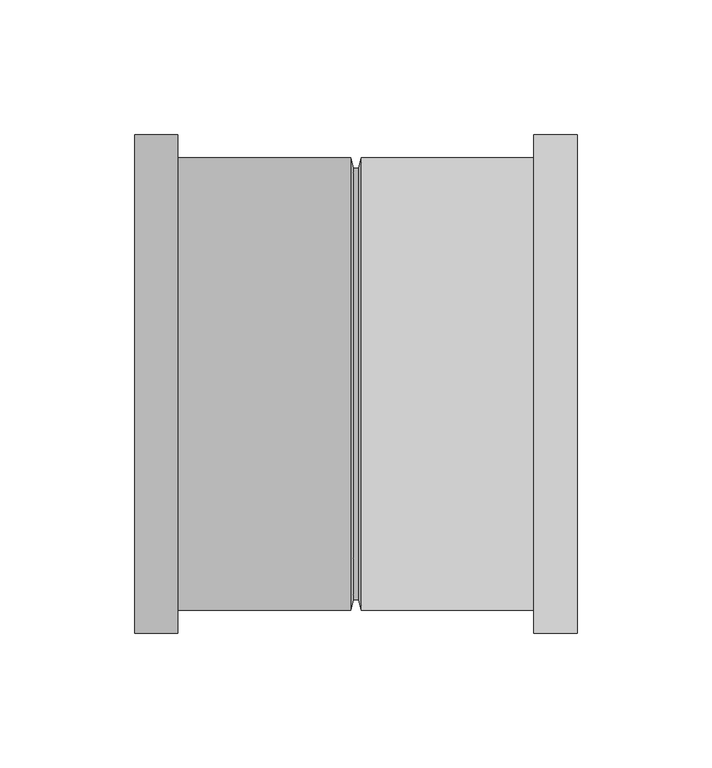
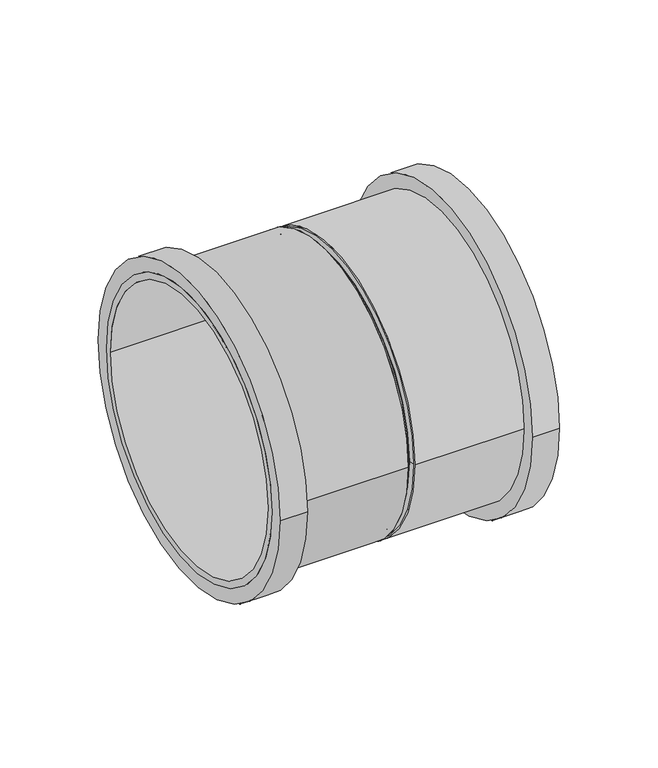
"""IFC4 building model written with IfcOpenShell, lengths in millimetres: pipe fitting geometry, Superdrain HTMM-Double socket : Superdrain HTMM-Double socket."""

from ifc_helpers import new_model, si_unit, point, frame, origin, origin_2d, place, context, project, spatial, polyline, circle_curve, trimmed, segment, composite_curve, outline, extrude, source, transform, mapped, element, save
from ifc_brep_helpers import plane_surface, revolved_surface, advanced_brep


def pipe_fitting_bc2beba0(model_context):
    return source(origin(), model_context, "Body", "SolidModel", [
        extrude(outline(composite_curve([segment(trimmed(circle_curve(origin_2d(), 84.0), [point((84.0, 0.0))], [point((-84.0, 0.0))], False, "CARTESIAN"), True, "CONTINUOUS"), segment(trimmed(circle_curve(origin_2d(), 84.0), [point((-84.0, 0.0))], [point((84.0, 0.0))], False, "CARTESIAN"), True, "CONTINUOUS")], self_intersect=False), holes=[composite_curve([segment(trimmed(circle_curve(origin_2d(), 80.0), [point((80.0, 0.0))], [point((-80.0, 0.0))], True, "CARTESIAN"), True, "CONTINUOUS"), segment(trimmed(circle_curve(origin_2d(), 80.0), [point((-80.0, 0.0))], [point((80.0, 0.0))], True, "CARTESIAN"), True, "CONTINUOUS")], self_intersect=False)]), frame((2.0, 0.0, 0.0), z_axis=(1.0, 0.0, 0.0), x_axis=(0.0, 1.0, 0.0)), (0.0, 0.0, 1.0), 80.0),
        extrude(outline(composite_curve([segment(trimmed(circle_curve(origin_2d(), 92.4), [point((92.4, 0.0))], [point((-92.4, 0.0))], False, "CARTESIAN"), True, "CONTINUOUS"), segment(trimmed(circle_curve(origin_2d(), 92.4), [point((-92.4, 0.0))], [point((92.4, 0.0))], False, "CARTESIAN"), True, "CONTINUOUS")], self_intersect=False), holes=[composite_curve([segment(trimmed(circle_curve(origin_2d(), 80.0), [point((80.0, 0.0))], [point((-80.0, 0.0))], True, "CARTESIAN"), True, "CONTINUOUS"), segment(trimmed(circle_curve(origin_2d(), 80.0), [point((-80.0, 0.0))], [point((80.0, 0.0))], True, "CARTESIAN"), True, "CONTINUOUS")], self_intersect=False)]), frame((66.0, 0.0, 0.0), z_axis=(1.0, 0.0, 0.0), x_axis=(0.0, 1.0, 0.0)), (0.0, 0.0, 1.0), 16.0),
        advanced_brep(
        [(1.0, 80.0, 0.0), (1.0, -80.0, 0.0), (2.0, 84.0, 0.0), (2.0, -84.0, 0.0)],
        [
            (0, 1, circle_curve(frame((1.0, 0.0, 0.0), z_axis=(-1.0, 0.0, 0.0), x_axis=(0.0, 1.0000000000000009, 0.0)), 80.0)),
            (1, 0, circle_curve(frame((1.0, 0.0, 0.0), z_axis=(-1.0, 0.0, 0.0), x_axis=(0.0, -1.0000000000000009, 0.0)), 80.0)),
            (2, 3, circle_curve(frame((2.0, 0.0, 0.0), z_axis=(1.0, 0.0, 0.0), x_axis=(0.0, -1.0000000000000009, 0.0)), 84.0)),
            (3, 2, circle_curve(frame((2.0, 0.0, 0.0), z_axis=(1.0, 0.0, 0.0), x_axis=(0.0, 1.0000000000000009, 0.0)), 84.0)),
            (3, 1),
            (0, 2),
        ],
        [
            plane_surface(frame((1.0, 0.0, 0.0), z_axis=(-1.0, 0.0, 0.0), x_axis=(0.0, 0.0, -1.0))),
            plane_surface(frame((2.0, 0.0, 0.0), z_axis=(1.0, 0.0, 0.0), x_axis=(0.0, 0.0, -1.0))),
            revolved_surface(polyline([(0.9999999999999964, 79.99999999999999, 0.0), (2.0, 84.0, 0.0)]), (-19.0, 0.0, 0.0), (1.0000000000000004, 0.0, 0.0)),
            revolved_surface(polyline([(0.9999999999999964, -79.99999999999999, 0.0), (2.0, -84.0, 0.0)]), (-19.0, 0.0, 0.0), (1.0000000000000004, 0.0, 0.0)),
        ],
        [
            (0, [[1, 2]]),
            (1, [[3, 4]]),
            (2, [[-4, 5, -1, 6]]),
            (3, [[-3, -6, -2, -5]]),
        ],
    ),
        extrude(outline(composite_curve([segment(trimmed(circle_curve(origin_2d(), 84.0), [point((-84.0, 0.0))], [point((84.0, 0.0))], False, "CARTESIAN"), True, "CONTINUOUS"), segment(trimmed(circle_curve(origin_2d(), 84.0), [point((84.0, 0.0))], [point((-84.0, 0.0))], False, "CARTESIAN"), True, "CONTINUOUS")], self_intersect=False), holes=[composite_curve([segment(trimmed(circle_curve(origin_2d(), 80.0), [point((-80.0, 0.0))], [point((80.0, 0.0))], True, "CARTESIAN"), True, "CONTINUOUS"), segment(trimmed(circle_curve(origin_2d(), 80.0), [point((80.0, 0.0))], [point((-80.0, 0.0))], True, "CARTESIAN"), True, "CONTINUOUS")], self_intersect=False)]), frame((-82.0, 0.0, 0.0), z_axis=(1.0, 0.0, 0.0), x_axis=(0.0, 1.0, 0.0)), (0.0, 0.0, 1.0), 80.0),
        extrude(outline(composite_curve([segment(trimmed(circle_curve(origin_2d(), 92.4), [point((-92.4, 0.0))], [point((92.4, 0.0))], False, "CARTESIAN"), True, "CONTINUOUS"), segment(trimmed(circle_curve(origin_2d(), 92.4), [point((92.4, 0.0))], [point((-92.4, 0.0))], False, "CARTESIAN"), True, "CONTINUOUS")], self_intersect=False), holes=[composite_curve([segment(trimmed(circle_curve(origin_2d(), 80.0), [point((-80.0, 0.0))], [point((80.0, 0.0))], True, "CARTESIAN"), True, "CONTINUOUS"), segment(trimmed(circle_curve(origin_2d(), 80.0), [point((80.0, 0.0))], [point((-80.0, 0.0))], True, "CARTESIAN"), True, "CONTINUOUS")], self_intersect=False)]), frame((-82.0, 0.0, 0.0), z_axis=(1.0, 0.0, 0.0), x_axis=(0.0, 1.0, 0.0)), (0.0, 0.0, 1.0), 16.0),
        advanced_brep(
        [(-1.0, -80.0, 0.0), (-1.0, 80.0, 0.0), (-2.0, -84.0, 0.0), (-2.0, 84.0, 0.0)],
        [
            (0, 1, circle_curve(frame((-1.0, 0.0, 0.0), z_axis=(1.0, 0.0, 0.0), x_axis=(0.0, -1.0, 0.0)), 80.0)),
            (1, 0, circle_curve(frame((-1.0, 0.0, 0.0), z_axis=(1.0, 0.0, 0.0), x_axis=(0.0, 1.0, 0.0)), 80.0)),
            (2, 3, circle_curve(frame((-2.0, 0.0, 0.0), z_axis=(-1.0, 0.0, 0.0), x_axis=(0.0, 1.0, 0.0)), 84.0)),
            (3, 2, circle_curve(frame((-2.0, 0.0, 0.0), z_axis=(-1.0, 0.0, 0.0), x_axis=(0.0, -1.0, 0.0)), 84.0)),
            (3, 1),
            (0, 2),
        ],
        [
            plane_surface(frame((-1.0, 0.0, 0.0), z_axis=(1.0, 0.0, 0.0), x_axis=(0.0, 0.0, -1.0))),
            plane_surface(frame((-2.0, 0.0, 0.0), z_axis=(-1.0, 0.0, 0.0), x_axis=(0.0, 0.0, -1.0))),
            revolved_surface(polyline([(-1.0, -80.0, 0.0), (-2.0, -84.0, 0.0)]), (19.0, 0.0, 0.0), (-1.0, 0.0, 0.0)),
            revolved_surface(polyline([(-1.0, 80.0, 0.0), (-2.0, 84.0, 0.0)]), (19.0, 0.0, 0.0), (-1.0, 0.0, 0.0)),
        ],
        [
            (0, [[1, 2]]),
            (1, [[3, 4]]),
            (2, [[-4, 5, -1, 6]]),
            (3, [[-3, -6, -2, -5]]),
        ],
    ),
        extrude(outline(composite_curve([segment(trimmed(circle_curve(origin_2d(), 80.0), [point((-80.0, 0.0))], [point((80.0, 0.0))], False, "CARTESIAN"), True, "CONTINUOUS"), segment(trimmed(circle_curve(origin_2d(), 80.0), [point((80.0, 0.0))], [point((-80.0, 0.0))], False, "CARTESIAN"), True, "CONTINUOUS")], self_intersect=False)), frame((-2.0, 0.0, 0.0), z_axis=(1.0, 0.0, 0.0), x_axis=(0.0, 1.0, 0.0)), (0.0, 0.0, 1.0), 4.0),
    ])


if __name__ == "__main__":
    model = new_model("IFC4")
    model_context = context("Model", 3, world=origin())
    ifc_project = project(units=[si_unit("LENGTHUNIT", "METRE", prefix="MILLI")], contexts=[model_context])
    site = spatial("IfcSite", under=ifc_project)
    building = spatial("IfcBuilding", under=site)
    placement = place(None, origin())
    pipe_fitting_shape = pipe_fitting_bc2beba0(model_context)
    element("IfcPipeFitting", 1, ObjectType="Superdrain HTMM-Double socket : Superdrain HTMM-Double socket", at=placement, inside=building, context=model_context, shape_type="MappedRepresentation", body=[
        mapped(pipe_fitting_shape, transform((0.0, 0.0, 0.0), x_axis=(1.0, 0.0, 0.0), y_axis=(0.0, 1.0, 0.0), z_axis=(0.0, 0.0, 1.0))),
    ])
    save(model, "model.ifc")
